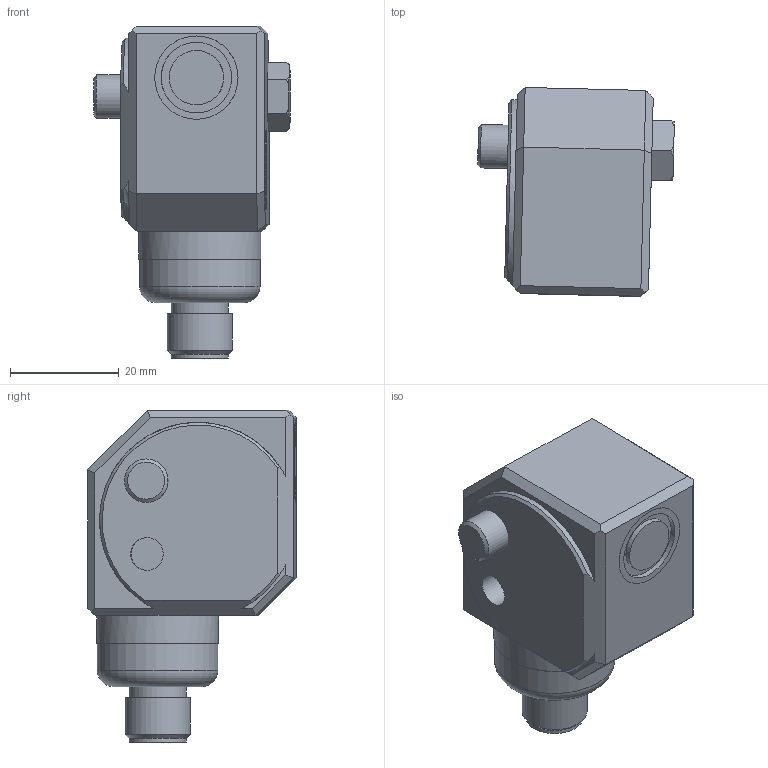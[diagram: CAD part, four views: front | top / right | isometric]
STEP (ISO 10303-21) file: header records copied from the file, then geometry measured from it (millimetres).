
FILE_DESCRIPTION(/* description */ (''),/* implementation_level */ '2;1');
FILE_NAME(/* name */ 'Z:\Engineering\Drawings\3D Library\Assemblies\HS-173XXX5408.stp',/* time_stamp */ '2023-03-25T20:32:21+00:00',/* author */ ('Ricardo.Peneda'),/* organization */ (''),/* preprocessor_version */ 'ST-DEVELOPER v18.1',/* originating_system */ 'Autodesk Inventor 2021',/* authorisation */ '');
FILE_SCHEMA (('AUTOMOTIVE_DESIGN { 1 0 10303 214 3 1 1 }'));
Length unit declared in the file: inch
Products named in the file (1): HS-173XXX5408_Shrinkwrap_1
Bounding box: 36.21 x 38.44 x 61.09 mm (x, y, z)
Volume: 27997 mm3; surface area: 14514.8 mm2
Topology: 5 solids, 5 shells, 102 faces, 251 edges, 179 vertices
Faces by surface type: plane 60, cylinder 28, cone 13, torus 1
Full cylindrical faces by diameter (mm): 4.5 x1, 6 x2, 7 x1, 8 x1, 9.4 x2, 10 x2, 10.496 x1, 10.5 x1, 12 x1, 13 x2, 14.95 x3, 15.34 x2, 15.35 x2, 18 x1, 19.95 x1, 20.23 x1, 22.2 x1, 22.43 x1
Entity records: 3252 total; most frequent: DIRECTION 569, CARTESIAN_POINT 565, ORIENTED_EDGE 502, EDGE_CURVE 251, AXIS2_PLACEMENT_3D 231, VERTEX_POINT 179, EDGE_LOOP 124, CIRCLE 122
